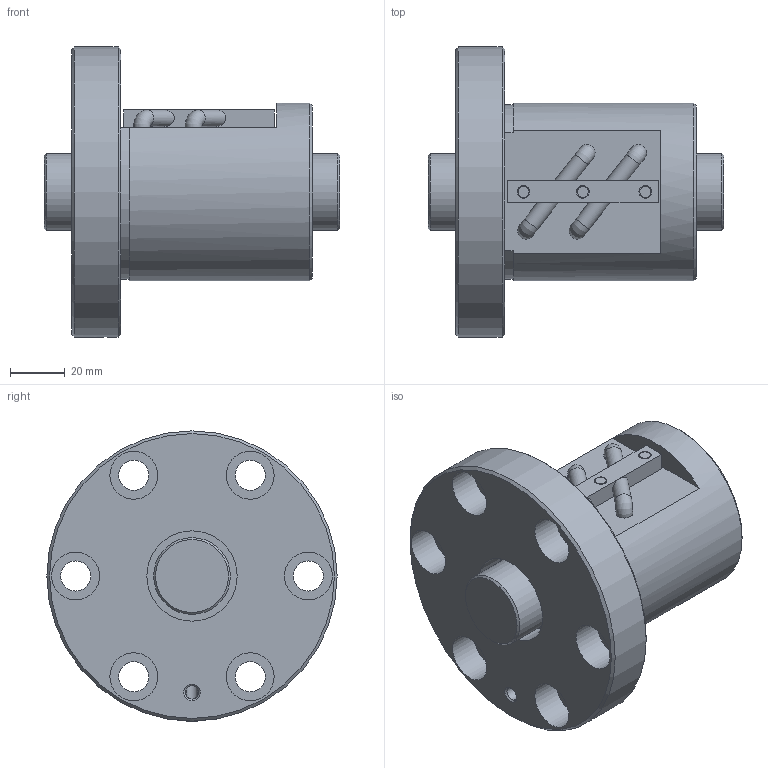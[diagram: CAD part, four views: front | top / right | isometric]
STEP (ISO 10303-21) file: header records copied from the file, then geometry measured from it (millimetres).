
FILE_DESCRIPTION(/* description */ ('STEP AP203'),/* implementation_level */ '2;1');
FILE_NAME(/* name */ 'BIF2810V-3RRG0+108LC0_000',/* time_stamp */ '2024-07-15T08:18:23+02:00',/* author */ ('License CC BY-ND 4.0'),/* organization */ ('CADENAS'),/* preprocessor_version */ 'ST-DEVELOPER v19.3',/* originating_system */ 'PARTsolutions',/* authorisation */ ' ');
FILE_SCHEMA (('CONFIG_CONTROL_DESIGN'));
Length unit declared in the file: millimetre
Products named in the file (3): BIF2810V-3RRG0+108LC0_000; BIF2810V-3RR000 Shaft; BIF2810V-3RR Nut
Assembly tree (2 placements, depth 2):
  BIF2810V-3RRG0+108LC0_000
    BIF2810V-3RR000 Shaft
    BIF2810V-3RR Nut
Bounding box: 108 x 106 x 106 mm (x, y, z)
Volume: 365886.1 mm3; surface area: 61924 mm2
Topology: 2 solids, 2 shells, 89 faces, 198 edges, 126 vertices
Faces by surface type: plane 41, cylinder 36, cone 8, torus 4
Full cylindrical faces by diameter (mm): 4 x3, 4.25 x2, 4.6 x3, 4.917 x1, 6.1 x4, 11 x6, 17.5 x6, 28 x2, 33 x2, 65 x1, 106 x1
Entity records: 2381 total; most frequent: CARTESIAN_POINT 448, DIRECTION 422, ORIENTED_EDGE 292, AXIS2_PLACEMENT_3D 194, EDGE_LOOP 166, FACE_BOUND 166, EDGE_CURVE 146, VERTEX_POINT 114
